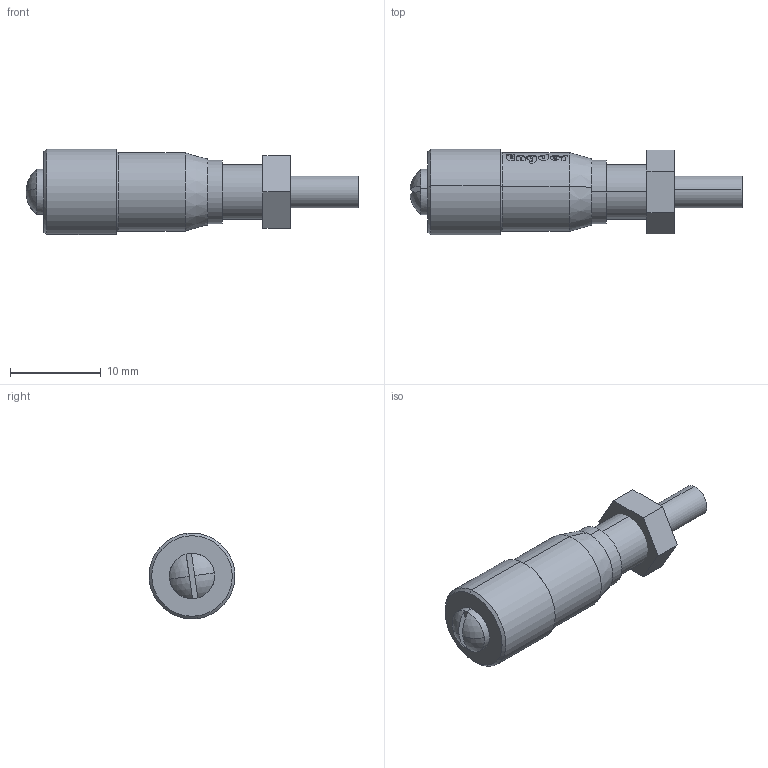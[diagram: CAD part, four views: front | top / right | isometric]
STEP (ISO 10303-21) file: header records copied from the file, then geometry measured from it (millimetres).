
FILE_DESCRIPTION (( 'STEP AP203' ), '1' );
FILE_NAME ('MT6.5-2_customer.STEP', '2019-02-13T12:10:49', ( 'User' ), ( 'No' ), 'SwSTEP 2.0', 'SolidWorks 2012', '' );
FILE_SCHEMA (( 'CONFIG_CONTROL_DESIGN' ));
Length unit declared in the file: millimetre
Products named in the file (4): MT6.5-2_b_customer; MT6.5-2_a_customer; MT6.5-2_c_customer; MT6.5-2_customer
Assembly tree (3 placements, depth 2):
  MT6.5-2_customer
    MT6.5-2_b_customer
    MT6.5-2_a_customer
    MT6.5-2_c_customer
Bounding box: 36.69 x 9.5 x 9.5 mm (x, y, z)
Volume: 1469.9 mm3; surface area: 2295.4 mm2
Topology: 3 solids, 3 shells, 145 faces, 361 edges, 236 vertices
Faces by surface type: plane 52, bspline 49, cylinder 30, cone 8, sphere 4, torus 2
Entity records: 8257 total; most frequent: CARTESIAN_POINT 4745, ORIENTED_EDGE 722, DIRECTION 510, EDGE_CURVE 361, VERTEX_POINT 236, AXIS2_PLACEMENT_3D 210, EDGE_LOOP 163, B_SPLINE_CURVE_WITH_KNOTS 163
